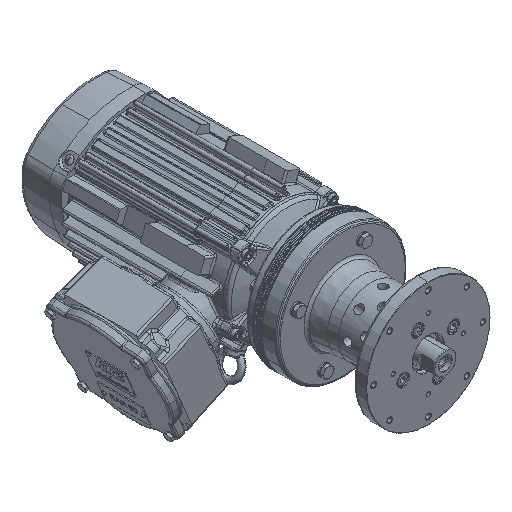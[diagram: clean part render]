
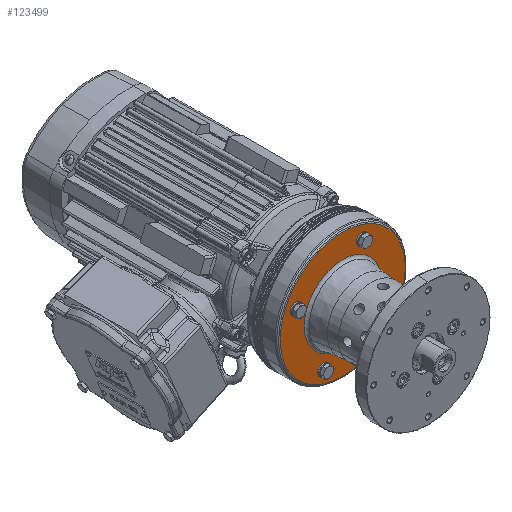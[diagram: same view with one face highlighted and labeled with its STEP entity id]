
A CAD part, isometric view. The second image highlights one B-rep face of the part: STEP entity #123499.
In plain terms, the highlighted planar face has unit normal (0, -1, 0).
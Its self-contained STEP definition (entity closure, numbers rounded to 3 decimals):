
#27 = DIRECTION ( 'NONE',  ( 0., -1., 0. ) ) ;
#559 = DIRECTION ( 'NONE',  ( 0.924, 0., 0.383 ) ) ;
#662 = VERTEX_POINT ( 'NONE', #119433 ) ;
#876 = DIRECTION ( 'NONE',  ( 0.924, 0., 0.383 ) ) ;
#1304 = ORIENTED_EDGE ( 'NONE', *, *, #83788, .F. ) ;
#6954 = AXIS2_PLACEMENT_3D ( 'NONE', #68442, #27, #107812 ) ;
#7363 = CARTESIAN_POINT ( 'NONE',  ( 28.662, 109.7, 61.621 ) ) ;
#7953 = CIRCLE ( 'NONE', #125451, 4.1 ) ;
#8799 = CARTESIAN_POINT ( 'NONE',  ( -56.264, 109.7, 26.443 ) ) ;
#9564 = CARTESIAN_POINT ( 'NONE',  ( 24.874, 109.7, 60.052 ) ) ;
#9752 = EDGE_CURVE ( 'NONE', #115016, #157996, #11975, .T. ) ;
#11975 = CIRCLE ( 'NONE', #129445, 49.564 ) ;
#15200 = CIRCLE ( 'NONE', #86377, 4.1 ) ;
#16266 = VERTEX_POINT ( 'NONE', #167566 ) ;
#16392 = CARTESIAN_POINT ( 'NONE',  ( -60.052, 109.7, 24.874 ) ) ;
#16648 = DIRECTION ( 'NONE',  ( 0., 1., 0. ) ) ;
#17303 = DIRECTION ( 'NONE',  ( 0.924, 0., 0.383 ) ) ;
#17628 = CIRCLE ( 'NONE', #36622, 49.564 ) ;
#18125 = EDGE_CURVE ( 'NONE', #134732, #82054, #15200, .T. ) ;
#18442 = CARTESIAN_POINT ( 'NONE',  ( 74.069, 109.7, 30.68 ) ) ;
#20517 = CIRCLE ( 'NONE', #6954, 80.172 ) ;
#20620 = CARTESIAN_POINT ( 'NONE',  ( -45.791, 109.7, -18.967 ) ) ;
#20913 = DIRECTION ( 'NONE',  ( 0., -1., 0. ) ) ;
#23584 = EDGE_CURVE ( 'NONE', #99844, #662, #98405, .T. ) ;
#25385 = EDGE_CURVE ( 'NONE', #150733, #166277, #166793, .T. ) ;
#26654 = DIRECTION ( 'NONE',  ( 0.924, 0., 0.383 ) ) ;
#28015 = AXIS2_PLACEMENT_3D ( 'NONE', #48296, #20913, #49947 ) ;
#29776 = CARTESIAN_POINT ( 'NONE',  ( -24.874, 109.7, -60.052 ) ) ;
#30056 = ORIENTED_EDGE ( 'NONE', *, *, #110457, .T. ) ;
#31350 = ORIENTED_EDGE ( 'NONE', *, *, #63738, .T. ) ;
#33278 = EDGE_CURVE ( 'NONE', #109916, #16266, #70691, .T. ) ;
#36622 = AXIS2_PLACEMENT_3D ( 'NONE', #149976, #16648, #161898 ) ;
#37863 = CIRCLE ( 'NONE', #57130, 80.172 ) ;
#39500 = CARTESIAN_POINT ( 'NONE',  ( -24.874, 109.7, -60.052 ) ) ;
#39907 = AXIS2_PLACEMENT_3D ( 'NONE', #78810, #105316, #876 ) ;
#43337 = CARTESIAN_POINT ( 'NONE',  ( -63.84, 109.7, 23.305 ) ) ;
#45150 = EDGE_CURVE ( 'NONE', #157996, #115016, #17628, .T. ) ;
#48199 = EDGE_CURVE ( 'NONE', #166277, #150733, #151862, .T. ) ;
#48296 = CARTESIAN_POINT ( 'NONE',  ( 24.874, 109.7, 60.052 ) ) ;
#49404 = EDGE_LOOP ( 'NONE', ( #85124, #155047 ) ) ;
#49693 = ORIENTED_EDGE ( 'NONE', *, *, #25385, .F. ) ;
#49947 = DIRECTION ( 'NONE',  ( 0.924, 0., 0.383 ) ) ;
#51133 = DIRECTION ( 'NONE',  ( 0.924, 0., 0.383 ) ) ;
#52591 = VERTEX_POINT ( 'NONE', #144065 ) ;
#54744 = ORIENTED_EDGE ( 'NONE', *, *, #45150, .T. ) ;
#57130 = AXIS2_PLACEMENT_3D ( 'NONE', #124111, #111325, #98502 ) ;
#60043 = ORIENTED_EDGE ( 'NONE', *, *, #122371, .F. ) ;
#61789 = DIRECTION ( 'NONE',  ( 0.924, 0., 0.383 ) ) ;
#63738 = EDGE_CURVE ( 'NONE', #52591, #102326, #20517, .T. ) ;
#68442 = CARTESIAN_POINT ( 'NONE',  ( 0., 109.7, 0. ) ) ;
#68588 = DIRECTION ( 'NONE',  ( 0., -1., 0. ) ) ;
#69485 = EDGE_LOOP ( 'NONE', ( #54744, #148708 ) ) ;
#70351 = FACE_BOUND ( 'NONE', #116785, .T. ) ;
#70691 = CIRCLE ( 'NONE', #166104, 4.1 ) ;
#71538 = CARTESIAN_POINT ( 'NONE',  ( -28.662, 109.7, -61.621 ) ) ;
#73301 = ORIENTED_EDGE ( 'NONE', *, *, #33278, .F. ) ;
#77351 = CIRCLE ( 'NONE', #28015, 4.1 ) ;
#78491 = EDGE_CURVE ( 'NONE', #662, #99844, #7953, .T. ) ;
#78810 = CARTESIAN_POINT ( 'NONE',  ( -60.052, 109.7, 24.874 ) ) ;
#82054 = VERTEX_POINT ( 'NONE', #7363 ) ;
#82401 = CARTESIAN_POINT ( 'NONE',  ( -42.96, 109.7, -17.795 ) ) ;
#83788 = EDGE_CURVE ( 'NONE', #82054, #134732, #77351, .T. ) ;
#84779 = AXIS2_PLACEMENT_3D ( 'NONE', #39500, #143818, #26654 ) ;
#85124 = ORIENTED_EDGE ( 'NONE', *, *, #23584, .F. ) ;
#86377 = AXIS2_PLACEMENT_3D ( 'NONE', #9564, #128464, #61789 ) ;
#97411 = DIRECTION ( 'NONE',  ( 0.924, 0., 0.383 ) ) ;
#98405 = CIRCLE ( 'NONE', #101092, 4.1 ) ;
#98502 = DIRECTION ( 'NONE',  ( 0.924, 0., 0.383 ) ) ;
#99844 = VERTEX_POINT ( 'NONE', #122890 ) ;
#101092 = AXIS2_PLACEMENT_3D ( 'NONE', #124568, #135680, #151856 ) ;
#102326 = VERTEX_POINT ( 'NONE', #18442 ) ;
#105316 = DIRECTION ( 'NONE',  ( 0., -1., 0. ) ) ;
#105831 = CARTESIAN_POINT ( 'NONE',  ( 0., 109.7, 0. ) ) ;
#106666 = DIRECTION ( 'NONE',  ( 0., 1., 0. ) ) ;
#107812 = DIRECTION ( 'NONE',  ( 0.924, 0., 0.383 ) ) ;
#108028 = FACE_BOUND ( 'NONE', #49404, .T. ) ;
#109916 = VERTEX_POINT ( 'NONE', #71538 ) ;
#110457 = EDGE_CURVE ( 'NONE', #102326, #52591, #37863, .T. ) ;
#111325 = DIRECTION ( 'NONE',  ( 0., -1., 0. ) ) ;
#115016 = VERTEX_POINT ( 'NONE', #20620 ) ;
#116160 = CARTESIAN_POINT ( 'NONE',  ( 60.052, 109.7, -24.874 ) ) ;
#116785 = EDGE_LOOP ( 'NONE', ( #131003, #49693 ) ) ;
#119433 = CARTESIAN_POINT ( 'NONE',  ( 56.264, 109.7, -26.443 ) ) ;
#121025 = EDGE_LOOP ( 'NONE', ( #60043, #73301 ) ) ;
#122095 = EDGE_LOOP ( 'NONE', ( #1304, #141015 ) ) ;
#122371 = EDGE_CURVE ( 'NONE', #16266, #109916, #166463, .T. ) ;
#122890 = CARTESIAN_POINT ( 'NONE',  ( 63.84, 109.7, -23.305 ) ) ;
#123499 = ADVANCED_FACE ( 'NONE', ( #133585, #108028, #160881, #70351, #159189, #146398 ), #148946, .F. ) ;
#124111 = CARTESIAN_POINT ( 'NONE',  ( 0., 109.7, 0. ) ) ;
#124568 = CARTESIAN_POINT ( 'NONE',  ( 60.052, 109.7, -24.874 ) ) ;
#125451 = AXIS2_PLACEMENT_3D ( 'NONE', #116160, #168182, #51133 ) ;
#128464 = DIRECTION ( 'NONE',  ( 0., -1., 0. ) ) ;
#129445 = AXIS2_PLACEMENT_3D ( 'NONE', #105831, #106666, #559 ) ;
#131003 = ORIENTED_EDGE ( 'NONE', *, *, #48199, .F. ) ;
#131391 = EDGE_LOOP ( 'NONE', ( #30056, #31350 ) ) ;
#133585 = FACE_BOUND ( 'NONE', #69485, .T. ) ;
#134435 = DIRECTION ( 'NONE',  ( 0., 1., 0. ) ) ;
#134732 = VERTEX_POINT ( 'NONE', #149214 ) ;
#135680 = DIRECTION ( 'NONE',  ( 0., -1., 0. ) ) ;
#136916 = AXIS2_PLACEMENT_3D ( 'NONE', #82401, #134435, #17303 ) ;
#141015 = ORIENTED_EDGE ( 'NONE', *, *, #18125, .F. ) ;
#143818 = DIRECTION ( 'NONE',  ( 0., -1., 0. ) ) ;
#144065 = CARTESIAN_POINT ( 'NONE',  ( -74.069, 109.7, -30.68 ) ) ;
#146398 = FACE_OUTER_BOUND ( 'NONE', #131391, .T. ) ;
#148636 = DIRECTION ( 'NONE',  ( 0., -1., 0. ) ) ;
#148708 = ORIENTED_EDGE ( 'NONE', *, *, #9752, .T. ) ;
#148946 = PLANE ( 'NONE',  #136916 ) ;
#149214 = CARTESIAN_POINT ( 'NONE',  ( 21.087, 109.7, 58.483 ) ) ;
#149976 = CARTESIAN_POINT ( 'NONE',  ( 0., 109.7, 0. ) ) ;
#150553 = AXIS2_PLACEMENT_3D ( 'NONE', #16392, #68588, #159952 ) ;
#150733 = VERTEX_POINT ( 'NONE', #43337 ) ;
#151856 = DIRECTION ( 'NONE',  ( 0.924, 0., 0.383 ) ) ;
#151862 = CIRCLE ( 'NONE', #39907, 4.1 ) ;
#155047 = ORIENTED_EDGE ( 'NONE', *, *, #78491, .F. ) ;
#157996 = VERTEX_POINT ( 'NONE', #165072 ) ;
#159189 = FACE_BOUND ( 'NONE', #122095, .T. ) ;
#159952 = DIRECTION ( 'NONE',  ( 0.924, 0., 0.383 ) ) ;
#160881 = FACE_BOUND ( 'NONE', #121025, .T. ) ;
#161898 = DIRECTION ( 'NONE',  ( 0.924, 0., 0.383 ) ) ;
#165072 = CARTESIAN_POINT ( 'NONE',  ( 45.791, 109.7, 18.967 ) ) ;
#166104 = AXIS2_PLACEMENT_3D ( 'NONE', #29776, #148636, #97411 ) ;
#166277 = VERTEX_POINT ( 'NONE', #8799 ) ;
#166463 = CIRCLE ( 'NONE', #84779, 4.1 ) ;
#166793 = CIRCLE ( 'NONE', #150553, 4.1 ) ;
#167566 = CARTESIAN_POINT ( 'NONE',  ( -21.087, 109.7, -58.483 ) ) ;
#168182 = DIRECTION ( 'NONE',  ( 0., -1., 0. ) ) ;
